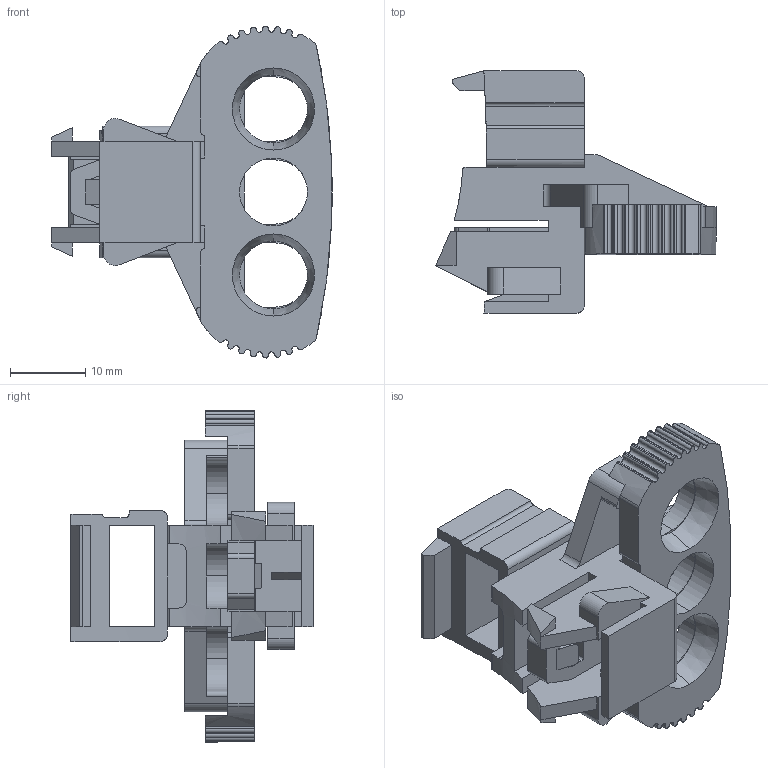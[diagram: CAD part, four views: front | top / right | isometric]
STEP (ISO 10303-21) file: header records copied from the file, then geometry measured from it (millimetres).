
FILE_DESCRIPTION (( 'STEP AP214' ), '1' );
FILE_NAME ('Óñòðîéñòâî äëÿ áëîêèðîâêè ÃÆÈÊ.301261.033.STEP', '2018-05-31T06:48:23', ( '' ), ( '' ), 'SwSTEP 2.0', 'SolidWorks 2018', '' );
FILE_SCHEMA (( 'AUTOMOTIVE_DESIGN' ));
Length unit declared in the file: millimetre
Products named in the file (3): Óñòðîéñòâî äëÿ áëîêèðîâêè ÃÆÈÊ.301261.033; Êðåïëåíèå ÃÆÈÊ.735384.099_ƒ†ˆŠ.735384.099; Ðó÷êà ÃÆÈÊ.753314.006_ƒ†ˆŠ.753314.006
Assembly tree (2 placements, depth 2):
  Óñòðîéñòâî äëÿ áëîêèðîâêè ÃÆÈÊ.301261.033
    Êðåïëåíèå ÃÆÈÊ.735384.099_ƒ†ˆŠ.735384.099
    Ðó÷êà ÃÆÈÊ.753314.006_ƒ†ˆŠ.753314.006
Bounding box: 37.2 x 32.1 x 44.01 mm (x, y, z)
Volume: 7749.3 mm3; surface area: 8217.4 mm2
Topology: 2 solids, 2 shells, 263 faces, 783 edges, 518 vertices
Faces by surface type: cylinder 140, plane 119, cone 4
Entity records: 9089 total; most frequent: CARTESIAN_POINT 1625, DIRECTION 1603, ORIENTED_EDGE 1566, EDGE_CURVE 783, AXIS2_PLACEMENT_3D 564, VERTEX_POINT 518, LINE 475, VECTOR 475
